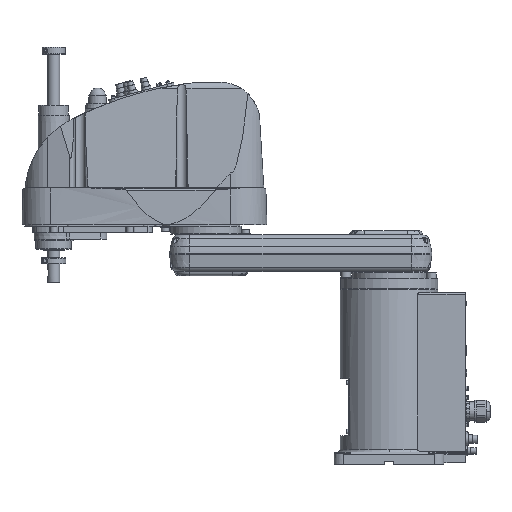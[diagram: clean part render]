
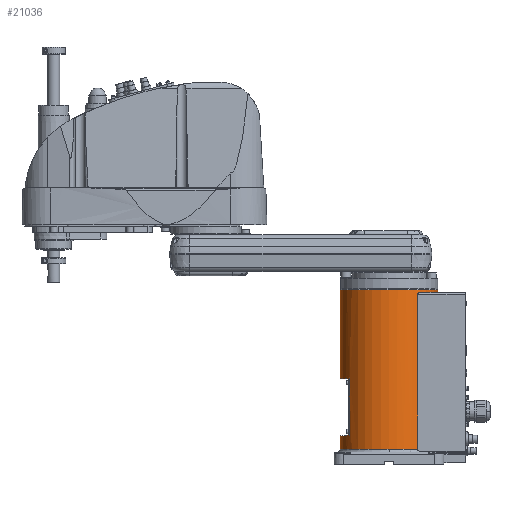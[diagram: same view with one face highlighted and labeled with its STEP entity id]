
A CAD part, top view. The second image highlights one B-rep face of the part: STEP entity #21036.
In plain terms, the highlighted cylindrical face has radius 80 mm (diameter 160 mm), a partial arc.
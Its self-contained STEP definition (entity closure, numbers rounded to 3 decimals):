
#7978 = EDGE_CURVE( '', #19254, #10476, #23800, .T. );
#8322 = EDGE_CURVE( '', #19682, #21028, #24181, .T. );
#8504 = EDGE_CURVE( '', #21028, #18982, #24384, .T. );
#9022 = VERTEX_POINT( '', #24977 );
#10364 = VERTEX_POINT( '', #26446 );
#10468 = EDGE_CURVE( '', #10476, #10364, #26568, .T. );
#10476 = VERTEX_POINT( '', #26576 );
#10478 = VERTEX_POINT( '', #26578 );
#11138 = EDGE_CURVE( '', #21104, #16024, #27315, .T. );
#12472 = EDGE_CURVE( '', #16006, #19682, #28794, .T. );
#14298 = EDGE_CURVE( '', #9022, #21104, #30850, .T. );
#15820 = EDGE_CURVE( '', #9022, #10364, #32556, .T. );
#16006 = VERTEX_POINT( '', #32763 );
#16016 = EDGE_CURVE( '', #16024, #16006, #32775, .T. );
#16024 = VERTEX_POINT( '', #32783 );
#17096 = EDGE_CURVE( '', #18760, #19254, #33980, .T. );
#18760 = VERTEX_POINT( '', #35837 );
#18982 = VERTEX_POINT( '', #36088 );
#19254 = VERTEX_POINT( '', #36392 );
#19682 = VERTEX_POINT( '', #36872 );
#19846 = EDGE_CURVE( '', #10478, #18760, #37055, .T. );
#20524 = EDGE_CURVE( '', #18982, #10478, #37804, .T. );
#21028 = VERTEX_POINT( '', #38363 );
#21036 = ADVANCED_FACE( '', ( #38372 ), #38373, .T. );
#21104 = VERTEX_POINT( '', #38446 );
#23800 = CIRCLE( '', #41454, 80. );
#24181 = LINE( '', #42006, #42007 );
#24384 = CIRCLE( '', #42333, 80. );
#24977 = CARTESIAN_POINT( '', ( -80., 286.5, 0. ) );
#26446 = CARTESIAN_POINT( '', ( 80., 286.5, 0. ) );
#26568 = LINE( '', #45508, #45509 );
#26576 = CARTESIAN_POINT( '', ( 80., 282., 0. ) );
#26578 = CARTESIAN_POINT( '', ( 46.637, 25., 65. ) );
#27315 = CIRCLE( '', #46625, 80. );
#28794 = CIRCLE( '', #48916, 80. );
#30850 = LINE( '', #52117, #52118 );
#32556 = CIRCLE( '', #54699, 80. );
#32763 = CARTESIAN_POINT( '', ( -65., 47.5, 46.637 ) );
#32775 = LINE( '', #54973, #54974 );
#32783 = CARTESIAN_POINT( '', ( -65., 140.5, 46.637 ) );
#33980 = B_SPLINE_CURVE_WITH_KNOTS( '', 3, ( #56746, #56747, #56748, #56749, #56750, #56751, #56752, #56753, #56754, #56755, #56756, #56757, #56758, #56759, #56760, #56761 ), .UNSPECIFIED., .F., .F., ( 4, 2, 2, 2, 2, 2, 2, 4 ), ( 0., 0.565, 1.13, 1.695, 2.26, 4.16, 5.11, 6.06 ), .UNSPECIFIED. );
#35837 = CARTESIAN_POINT( '', ( 46.637, 279., 65. ) );
#36088 = CARTESIAN_POINT( '', ( 0., 25., 80. ) );
#36392 = CARTESIAN_POINT( '', ( 50.557, 282., 62. ) );
#36872 = CARTESIAN_POINT( '', ( -80., 47.5, 0. ) );
#37055 = LINE( '', #61416, #61417 );
#37804 = CIRCLE( '', #62558, 80. );
#38363 = CARTESIAN_POINT( '', ( -80., 25., 0. ) );
#38372 = FACE_OUTER_BOUND( '', #63448, .T. );
#38373 = CYLINDRICAL_SURFACE( '', #63449, 80. );
#38446 = CARTESIAN_POINT( '', ( -80., 140.5, 0. ) );
#41454 = AXIS2_PLACEMENT_3D( '', #68114, #68115, #68116 );
#42006 = CARTESIAN_POINT( '', ( -80., 155.75, 0. ) );
#42007 = VECTOR( '', #68537, 1. );
#42333 = AXIS2_PLACEMENT_3D( '', #68771, #68772, #68773 );
#45508 = CARTESIAN_POINT( '', ( 80., 155.75, 0. ) );
#45509 = VECTOR( '', #71276, 1. );
#46625 = AXIS2_PLACEMENT_3D( '', #72182, #72183, #72184 );
#48916 = AXIS2_PLACEMENT_3D( '', #73904, #73905, #73906 );
#52117 = CARTESIAN_POINT( '', ( -80., 155.75, 0. ) );
#52118 = VECTOR( '', #76456, 1. );
#54699 = AXIS2_PLACEMENT_3D( '', #78433, #78434, #78435 );
#54973 = CARTESIAN_POINT( '', ( -65., 94., 46.637 ) );
#54974 = VECTOR( '', #78682, 1. );
#56746 = CARTESIAN_POINT( '', ( 46.637, 279., 65. ) );
#56747 = CARTESIAN_POINT( '', ( 46.637, 279.188, 65. ) );
#56748 = CARTESIAN_POINT( '', ( 46.662, 279.376, 64.982 ) );
#56749 = CARTESIAN_POINT( '', ( 46.758, 279.739, 64.913 ) );
#56750 = CARTESIAN_POINT( '', ( 46.828, 279.915, 64.863 ) );
#56751 = CARTESIAN_POINT( '', ( 47.002, 280.242, 64.736 ) );
#56752 = CARTESIAN_POINT( '', ( 47.106, 280.395, 64.661 ) );
#56753 = CARTESIAN_POINT( '', ( 47.333, 280.673, 64.495 ) );
#56754 = CARTESIAN_POINT( '', ( 47.455, 280.799, 64.405 ) );
#56755 = CARTESIAN_POINT( '', ( 47.991, 281.279, 64.009 ) );
#56756 = CARTESIAN_POINT( '', ( 48.491, 281.555, 63.632 ) );
#56757 = CARTESIAN_POINT( '', ( 49.269, 281.826, 63.029 ) );
#56758 = CARTESIAN_POINT( '', ( 49.533, 281.893, 62.822 ) );
#56759 = CARTESIAN_POINT( '', ( 50.054, 281.98, 62.407 ) );
#56760 = CARTESIAN_POINT( '', ( 50.312, 282., 62.2 ) );
#56761 = CARTESIAN_POINT( '', ( 50.557, 282., 62. ) );
#61416 = CARTESIAN_POINT( '', ( 46.637, 152., 65. ) );
#61417 = VECTOR( '', #83676, 1. );
#62558 = AXIS2_PLACEMENT_3D( '', #84506, #84507, #84508 );
#63448 = EDGE_LOOP( '', ( #85159, #85160, #85161, #85162, #85163, #85164, #85165, #85166, #85167, #85168, #85169, #85170 ) );
#63449 = AXIS2_PLACEMENT_3D( '', #85171, #85172, #85173 );
#68114 = CARTESIAN_POINT( '', ( 0., 282., 0. ) );
#68115 = DIRECTION( '', ( 0., 1., 0. ) );
#68116 = DIRECTION( '', ( 1., 0., 0. ) );
#68537 = DIRECTION( '', ( 0., -1., 0. ) );
#68771 = CARTESIAN_POINT( '', ( 0., 25., 0. ) );
#68772 = DIRECTION( '', ( 0., 1., 0. ) );
#68773 = DIRECTION( '', ( 1., 0., 0. ) );
#71276 = DIRECTION( '', ( 0., 1., 0. ) );
#72182 = CARTESIAN_POINT( '', ( 0., 140.5, 0. ) );
#72183 = DIRECTION( '', ( 0., 1., 0. ) );
#72184 = DIRECTION( '', ( 1., 0., 0. ) );
#73904 = CARTESIAN_POINT( '', ( 0., 47.5, 0. ) );
#73905 = DIRECTION( '', ( 0., -1., 0. ) );
#73906 = DIRECTION( '', ( 1., 0., 0. ) );
#76456 = DIRECTION( '', ( 0., -1., 0. ) );
#78433 = CARTESIAN_POINT( '', ( 0., 286.5, 0. ) );
#78434 = DIRECTION( '', ( 0., 1., 0. ) );
#78435 = DIRECTION( '', ( 1., 0., 0. ) );
#78682 = DIRECTION( '', ( 0., -1., 0. ) );
#83676 = DIRECTION( '', ( 0., 1., 0. ) );
#84506 = CARTESIAN_POINT( '', ( 0., 25., 0. ) );
#84507 = DIRECTION( '', ( 0., 1., 0. ) );
#84508 = DIRECTION( '', ( 1., 0., 0. ) );
#85159 = ORIENTED_EDGE( '', *, *, #10468, .T. );
#85160 = ORIENTED_EDGE( '', *, *, #15820, .F. );
#85161 = ORIENTED_EDGE( '', *, *, #14298, .T. );
#85162 = ORIENTED_EDGE( '', *, *, #11138, .T. );
#85163 = ORIENTED_EDGE( '', *, *, #16016, .T. );
#85164 = ORIENTED_EDGE( '', *, *, #12472, .T. );
#85165 = ORIENTED_EDGE( '', *, *, #8322, .T. );
#85166 = ORIENTED_EDGE( '', *, *, #8504, .T. );
#85167 = ORIENTED_EDGE( '', *, *, #20524, .T. );
#85168 = ORIENTED_EDGE( '', *, *, #19846, .T. );
#85169 = ORIENTED_EDGE( '', *, *, #17096, .T. );
#85170 = ORIENTED_EDGE( '', *, *, #7978, .T. );
#85171 = CARTESIAN_POINT( '', ( 0., 155.75, 0. ) );
#85172 = DIRECTION( '', ( 0., -1., 0. ) );
#85173 = DIRECTION( '', ( 1., 0., 0. ) );
